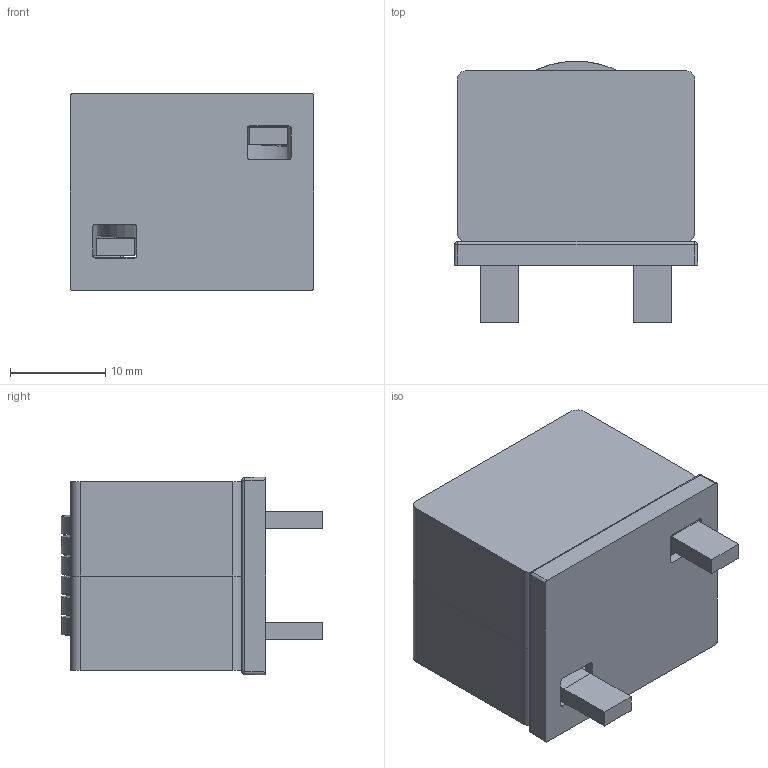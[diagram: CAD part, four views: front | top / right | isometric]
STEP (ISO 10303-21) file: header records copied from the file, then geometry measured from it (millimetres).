
FILE_DESCRIPTION (( 'STEP AP214' ), '1' );
FILE_NAME ('IHDM-1008BC-VA 4.7µH.STEP', '2018-05-18T16:19:07', ( '' ), ( '' ), 'SwSTEP 2.0', 'SolidWorks 2017', '' );
FILE_SCHEMA (( 'AUTOMOTIVE_DESIGN' ));
Length unit declared in the file: inch
Products named in the file (1): IHDM-1008BC-VA 4.7焙
Bounding box: 25.61 x 27.5 x 20.81 mm (x, y, z)
Volume: 8492.6 mm3; surface area: 8238.3 mm2
Topology: 2 solids, 2 shells, 215 faces, 506 edges, 276 vertices
Faces by surface type: cylinder 88, plane 65, bspline 30, torus 18, sphere 14
Entity records: 8979 total; most frequent: CARTESIAN_POINT 3304, ORIENTED_EDGE 976, DIRECTION 958, EDGE_CURVE 488, AXIS2_PLACEMENT_3D 354, VERTEX_POINT 276, LINE 250, VECTOR 250
